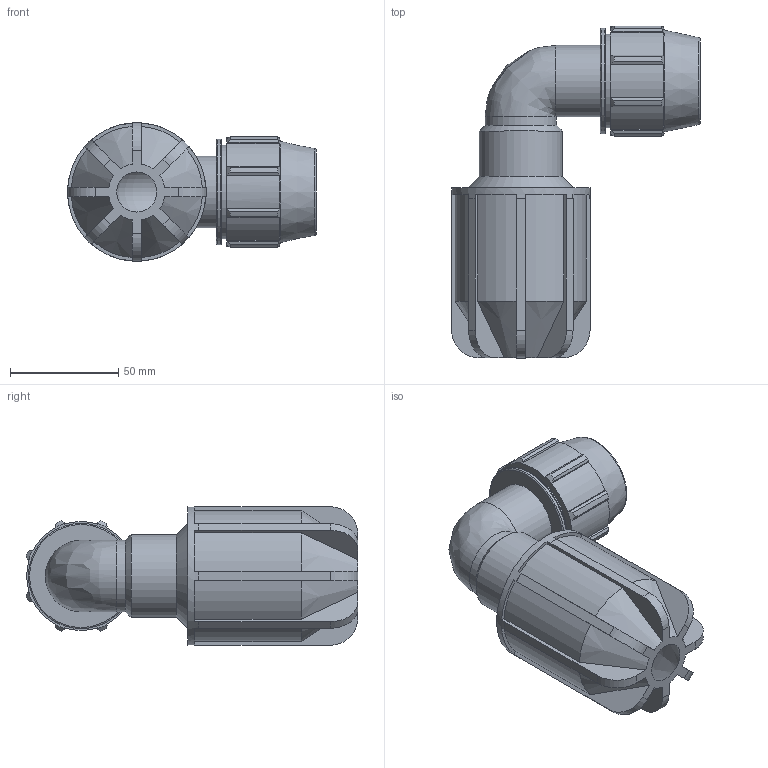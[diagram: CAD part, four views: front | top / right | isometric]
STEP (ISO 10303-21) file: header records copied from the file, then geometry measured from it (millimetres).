
FILE_DESCRIPTION(/* description */ ('PLASSON PLASS4 90° ELBOW 3/4'''' - 0.73'),/* implementation_level */ '2;1');
FILE_NAME(/* name */ 'C:\Dropbox\KIMPROJECTS-Inventor 2019\99-16-3568-Processing Inch\ASTM Compression 2021\070570M0\070570M07022.ipt.stp',/* time_stamp */ '2021-08-26T12:31:39+03:00',/* author */ ('KIM'),/* organization */ (''),/* preprocessor_version */ 'ST-DEVELOPER v17.2',/* originating_system */ 'Autodesk Inventor 2019',/* authorisation */ '');
FILE_SCHEMA (('AUTOMOTIVE_DESIGN { 1 0 10303 214 3 1 1 }'));
Length unit declared in the file: inch
Products named in the file (1): 070570M07022
Bounding box: 115.06 x 153.47 x 64.01 mm (x, y, z)
Volume: 233442.1 mm3; surface area: 61733.4 mm2
Topology: 1 solids, 1 shells, 160 faces, 466 edges, 312 vertices
Faces by surface type: plane 88, cylinder 42, cone 24, torus 5, bspline 1
Full cylindrical faces by diameter (mm): 23.94 x2, 26.6 x1, 29.203 x1, 32.992 x2, 38.255 x1, 43.282 x1, 48.692 x1, 64.008 x1
Entity records: 5543 total; most frequent: CARTESIAN_POINT 1059, ORIENTED_EDGE 928, DIRECTION 910, EDGE_CURVE 464, AXIS2_PLACEMENT_3D 334, VERTEX_POINT 312, LINE 242, VECTOR 242
